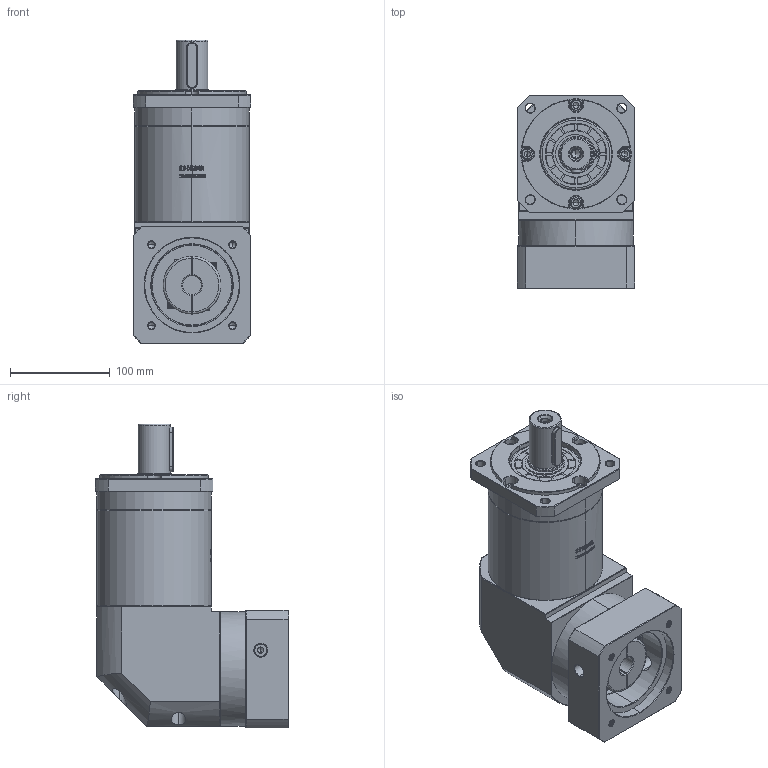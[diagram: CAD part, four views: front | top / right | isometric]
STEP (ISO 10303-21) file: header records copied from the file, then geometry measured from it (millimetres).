
FILE_DESCRIPTION (( 'STEP AP214' ), '1' );
FILE_NAME ('ZFR120A-D32-L3-19-95-115-M8.step', '2023-03-08T08:27:29', ( '' ), ( '' ), 'SwSTEP 2.0', 'SolidWorks 2016', '' );
FILE_SCHEMA (( 'AUTOMOTIVE_DESIGN' ));
Length unit declared in the file: millimetre
Products named in the file (1): ZFR120A-D32-L3-19-95-115-M8
Bounding box: 118 x 193.9 x 305 mm (x, y, z)
Volume: 3505972.6 mm3; surface area: 265690.5 mm2
Topology: 6 solids, 6 shells, 2869 faces, 7681 edges, 4957 vertices
Faces by surface type: plane 1484, bspline 606, cylinder 434, cone 337, torus 8
Entity records: 158160 total; most frequent: CARTESIAN_POINT 60757, ORIENTED_EDGE 15302, DIRECTION 11132, EDGE_CURVE 7651, VERTEX_POINT 4957, VECTOR 4748, LINE 4748, AXIS2_PLACEMENT_3D 3192
